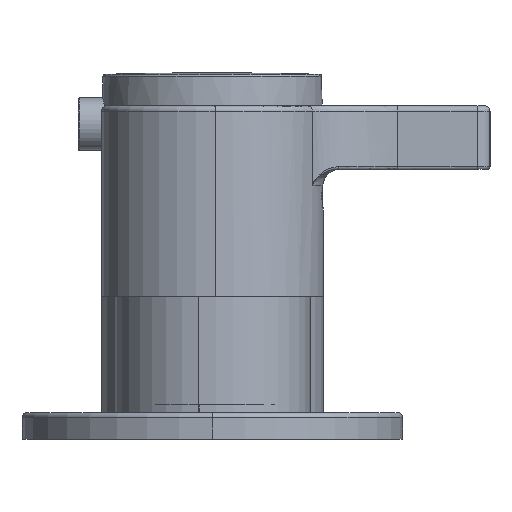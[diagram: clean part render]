
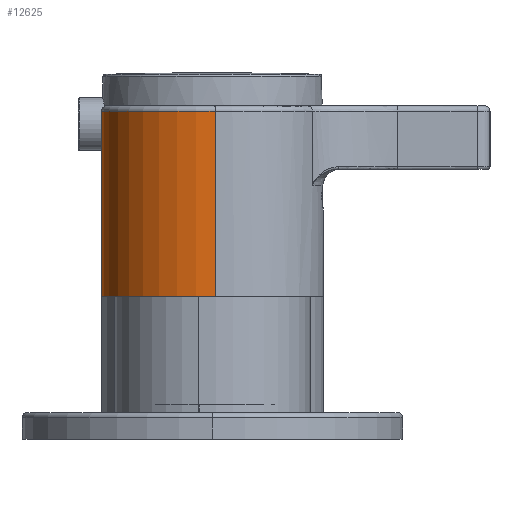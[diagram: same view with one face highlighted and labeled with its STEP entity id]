
A CAD part, left-side view. The second image highlights one B-rep face of the part: STEP entity #12625.
In plain terms, the highlighted cylindrical face has radius 21 mm (diameter 42 mm), a partial arc.
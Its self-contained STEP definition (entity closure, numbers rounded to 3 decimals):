
#183 = CARTESIAN_POINT ( 'NONE',  ( -21., 0., 0. ) ) ;
#374 = CARTESIAN_POINT ( 'NONE',  ( 0., 0., 0. ) ) ;
#813 = VERTEX_POINT ( 'NONE', #183 ) ;
#1184 = AXIS2_PLACEMENT_3D ( 'NONE', #17780, #15763, #5916 ) ;
#1355 = LINE ( 'NONE', #15014, #2791 ) ;
#1738 = DIRECTION ( 'NONE',  ( 0., 0., 1. ) ) ;
#2727 = DIRECTION ( 'NONE',  ( 0., 0., -1. ) ) ;
#2791 = VECTOR ( 'NONE', #2727, 1000. ) ;
#4097 = CARTESIAN_POINT ( 'NONE',  ( -21., 0., 36. ) ) ;
#5916 = DIRECTION ( 'NONE',  ( -1., 0., 0. ) ) ;
#6060 = ORIENTED_EDGE ( 'NONE', *, *, #10069, .T. ) ;
#6216 = VERTEX_POINT ( 'NONE', #20181 ) ;
#6599 = CARTESIAN_POINT ( 'NONE',  ( 21., 0., 35. ) ) ;
#6864 = VERTEX_POINT ( 'NONE', #20941 ) ;
#8249 = ORIENTED_EDGE ( 'NONE', *, *, #18432, .T. ) ;
#8365 = DIRECTION ( 'NONE',  ( 1., 0., 0. ) ) ;
#9428 = EDGE_CURVE ( 'NONE', #14091, #6864, #1355, .T. ) ;
#9603 = ORIENTED_EDGE ( 'NONE', *, *, #9428, .T. ) ;
#9643 = AXIS2_PLACEMENT_3D ( 'NONE', #18657, #16945, #8365 ) ;
#10069 = EDGE_CURVE ( 'NONE', #6864, #813, #22189, .T. ) ;
#10686 = AXIS2_PLACEMENT_3D ( 'NONE', #374, #1738, #21057 ) ;
#10800 = FACE_OUTER_BOUND ( 'NONE', #18603, .T. ) ;
#10907 = CYLINDRICAL_SURFACE ( 'NONE', #1184, 21. ) ;
#11223 = DIRECTION ( 'NONE',  ( 0., 0., -1. ) ) ;
#12625 = ADVANCED_FACE ( 'NONE', ( #10800 ), #10907, .T. ) ;
#13920 = LINE ( 'NONE', #4097, #15726 ) ;
#13941 = CIRCLE ( 'NONE', #9643, 21. ) ;
#14091 = VERTEX_POINT ( 'NONE', #6599 ) ;
#15014 = CARTESIAN_POINT ( 'NONE',  ( 21., 0., 36. ) ) ;
#15413 = ORIENTED_EDGE ( 'NONE', *, *, #17102, .F. ) ;
#15726 = VECTOR ( 'NONE', #11223, 1000. ) ;
#15763 = DIRECTION ( 'NONE',  ( 0., 0., -1. ) ) ;
#16945 = DIRECTION ( 'NONE',  ( 0., 0., -1. ) ) ;
#17102 = EDGE_CURVE ( 'NONE', #6216, #813, #13920, .T. ) ;
#17780 = CARTESIAN_POINT ( 'NONE',  ( 0., 0., 36. ) ) ;
#18432 = EDGE_CURVE ( 'NONE', #6216, #14091, #13941, .T. ) ;
#18603 = EDGE_LOOP ( 'NONE', ( #8249, #9603, #6060, #15413 ) ) ;
#18657 = CARTESIAN_POINT ( 'NONE',  ( 0., 0., 35. ) ) ;
#20181 = CARTESIAN_POINT ( 'NONE',  ( -21., 0., 35. ) ) ;
#20941 = CARTESIAN_POINT ( 'NONE',  ( 21., 0., 0. ) ) ;
#21057 = DIRECTION ( 'NONE',  ( 1., 0., 0. ) ) ;
#22189 = CIRCLE ( 'NONE', #10686, 21. ) ;
